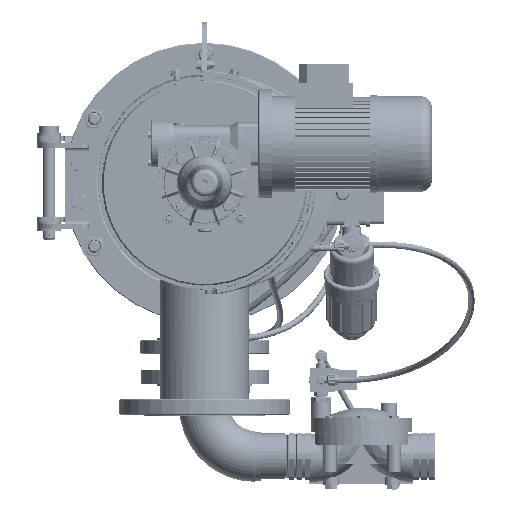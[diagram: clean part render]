
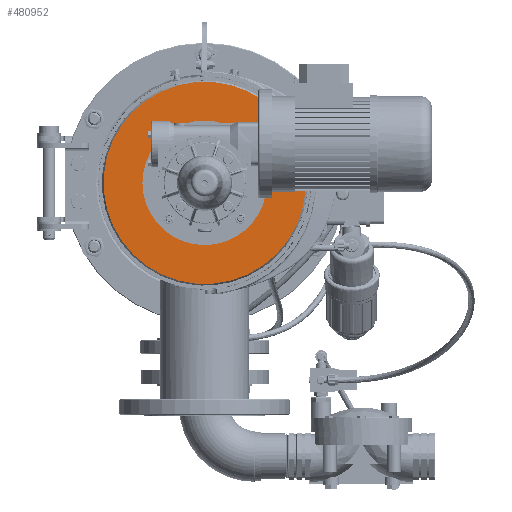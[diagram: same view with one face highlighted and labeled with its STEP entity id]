
A CAD part, left-side view. The second image highlights one B-rep face of the part: STEP entity #480952.
In plain terms, the highlighted planar face has unit normal (-1, 0, 0).
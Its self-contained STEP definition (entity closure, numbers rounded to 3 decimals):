
#29604 = CARTESIAN_POINT ( 'NONE',  ( -197.772, -24.138, -35.976 ) ) ;
#32699 = DIRECTION ( 'NONE',  ( 0., -0.707, 0.707 ) ) ;
#33155 = CIRCLE ( 'NONE', #551403, 4.75 ) ;
#38678 = CARTESIAN_POINT ( 'NONE',  ( -197.772, 32.887, -24.059 ) ) ;
#43013 = CARTESIAN_POINT ( 'NONE',  ( -197.772, -21.486, -38.628 ) ) ;
#49628 = CARTESIAN_POINT ( 'NONE',  ( -197.772, 1.495, -15.647 ) ) ;
#50391 = FACE_BOUND ( 'NONE', #479913, .T. ) ;
#55289 = EDGE_LOOP ( 'NONE', ( #739970 ) ) ;
#59326 = EDGE_LOOP ( 'NONE', ( #696030 ) ) ;
#73196 = FACE_OUTER_BOUND ( 'NONE', #130669, .T. ) ;
#76000 = VERTEX_POINT ( 'NONE', #841782 ) ;
#82651 = AXIS2_PLACEMENT_3D ( 'NONE', #680848, #263124, #337243 ) ;
#86391 = EDGE_LOOP ( 'NONE', ( #547245 ) ) ;
#100970 = AXIS2_PLACEMENT_3D ( 'NONE', #139042, #226846, #574574 ) ;
#101918 = CARTESIAN_POINT ( 'NONE',  ( -197.772, -44.467, 30.315 ) ) ;
#122835 = EDGE_CURVE ( 'NONE', #592145, #592145, #33155, .T. ) ;
#126126 = EDGE_CURVE ( 'NONE', #149921, #149921, #185911, .T. ) ;
#128297 = DIRECTION ( 'NONE',  ( -1., 0., 0. ) ) ;
#130669 = EDGE_LOOP ( 'NONE', ( #728854 ) ) ;
#138115 = CARTESIAN_POINT ( 'NONE',  ( -197.772, -90.429, -107.571 ) ) ;
#139042 = CARTESIAN_POINT ( 'NONE',  ( -197.772, 1.495, -15.647 ) ) ;
#140531 = DIRECTION ( 'NONE',  ( 0., -0.707, 0.707 ) ) ;
#149921 = VERTEX_POINT ( 'NONE', #562571 ) ;
#185911 = CIRCLE ( 'NONE', #82651, 3.75 ) ;
#186964 = DIRECTION ( 'NONE',  ( 0., -0.707, 0.707 ) ) ;
#190155 = DIRECTION ( 'NONE',  ( 1., 0., 0. ) ) ;
#207739 = FACE_BOUND ( 'NONE', #529513, .T. ) ;
#220761 = ORIENTED_EDGE ( 'NONE', *, *, #831309, .F. ) ;
#224460 = ORIENTED_EDGE ( 'NONE', *, *, #705300, .T. ) ;
#226846 = DIRECTION ( 'NONE',  ( -1., 0., 0. ) ) ;
#258334 = VERTEX_POINT ( 'NONE', #601621 ) ;
#262579 = EDGE_CURVE ( 'NONE', #911483, #911483, #323141, .T. ) ;
#263124 = DIRECTION ( 'NONE',  ( 1., 0., 0. ) ) ;
#275004 = DIRECTION ( 'NONE',  ( 1., 0., 0. ) ) ;
#275167 = CIRCLE ( 'NONE', #408784, 4.75 ) ;
#281036 = DIRECTION ( 'NONE',  ( 0., 0.707, -0.707 ) ) ;
#281422 = CIRCLE ( 'NONE', #844664, 4.75 ) ;
#298610 = ORIENTED_EDGE ( 'NONE', *, *, #122835, .T. ) ;
#305510 = DIRECTION ( 'NONE',  ( 0., -0.707, 0.707 ) ) ;
#323141 = CIRCLE ( 'NONE', #100970, 130. ) ;
#324550 = CARTESIAN_POINT ( 'NONE',  ( -197.772, -44.467, -61.609 ) ) ;
#333054 = FACE_BOUND ( 'NONE', #59326, .T. ) ;
#337243 = DIRECTION ( 'NONE',  ( 0., -0.707, 0.707 ) ) ;
#342203 = FACE_BOUND ( 'NONE', #824754, .T. ) ;
#352637 = CIRCLE ( 'NONE', #412237, 4.75 ) ;
#365831 = DIRECTION ( 'NONE',  ( 1., 0., 0. ) ) ;
#366534 = ORIENTED_EDGE ( 'NONE', *, *, #126126, .T. ) ;
#381691 = VERTEX_POINT ( 'NONE', #29604 ) ;
#393533 = DIRECTION ( 'NONE',  ( 0., -0.707, 0.707 ) ) ;
#398597 = EDGE_CURVE ( 'NONE', #258334, #258334, #546914, .T. ) ;
#408784 = AXIS2_PLACEMENT_3D ( 'NONE', #101918, #514617, #393533 ) ;
#412237 = AXIS2_PLACEMENT_3D ( 'NONE', #710969, #275004, #140531 ) ;
#412570 = EDGE_CURVE ( 'NONE', #829236, #829236, #275167, .T. ) ;
#424842 = CARTESIAN_POINT ( 'NONE',  ( -197.772, -47.826, 33.674 ) ) ;
#452978 = CARTESIAN_POINT ( 'NONE',  ( -197.772, -47.826, -58.25 ) ) ;
#472090 = EDGE_CURVE ( 'NONE', #746885, #746885, #281422, .T. ) ;
#479913 = EDGE_LOOP ( 'NONE', ( #366534 ) ) ;
#480952 = ADVANCED_FACE ( 'NONE', ( #895078, #541846, #50391, #333054, #342203, #207739, #490462, #620574, #73196 ), #769217, .F. ) ;
#490462 = FACE_BOUND ( 'NONE', #649877, .T. ) ;
#514617 = DIRECTION ( 'NONE',  ( 1., 0., 0. ) ) ;
#529513 = EDGE_LOOP ( 'NONE', ( #298610 ) ) ;
#541846 = FACE_BOUND ( 'NONE', #55289, .T. ) ;
#546914 = CIRCLE ( 'NONE', #605803, 3.75 ) ;
#547245 = ORIENTED_EDGE ( 'NONE', *, *, #472090, .T. ) ;
#551403 = AXIS2_PLACEMENT_3D ( 'NONE', #324550, #190155, #32699 ) ;
#558239 = CARTESIAN_POINT ( 'NONE',  ( -197.772, 93.419, -107.571 ) ) ;
#562571 = CARTESIAN_POINT ( 'NONE',  ( -197.772, -9.569, 18.397 ) ) ;
#574574 = DIRECTION ( 'NONE',  ( 0., 0.707, -0.707 ) ) ;
#592145 = VERTEX_POINT ( 'NONE', #452978 ) ;
#601621 = CARTESIAN_POINT ( 'NONE',  ( -197.772, 30.236, -21.407 ) ) ;
#605803 = AXIS2_PLACEMENT_3D ( 'NONE', #38678, #822698, #186964 ) ;
#620574 = FACE_BOUND ( 'NONE', #715326, .T. ) ;
#649877 = EDGE_LOOP ( 'NONE', ( #224460 ) ) ;
#653087 = VERTEX_POINT ( 'NONE', #853038 ) ;
#657657 = CIRCLE ( 'NONE', #776444, 3.75 ) ;
#679367 = AXIS2_PLACEMENT_3D ( 'NONE', #49628, #128297, #281036 ) ;
#680848 = CARTESIAN_POINT ( 'NONE',  ( -197.772, -6.917, 15.746 ) ) ;
#696030 = ORIENTED_EDGE ( 'NONE', *, *, #398597, .T. ) ;
#700378 = AXIS2_PLACEMENT_3D ( 'NONE', #138115, #834346, #778294 ) ;
#705300 = EDGE_CURVE ( 'NONE', #381691, #381691, #657657, .T. ) ;
#710969 = CARTESIAN_POINT ( 'NONE',  ( -197.772, 47.457, -61.609 ) ) ;
#715326 = EDGE_LOOP ( 'NONE', ( #220761 ) ) ;
#728854 = ORIENTED_EDGE ( 'NONE', *, *, #262579, .T. ) ;
#739970 = ORIENTED_EDGE ( 'NONE', *, *, #412570, .T. ) ;
#746885 = VERTEX_POINT ( 'NONE', #756068 ) ;
#756068 = CARTESIAN_POINT ( 'NONE',  ( -197.772, 44.098, 33.674 ) ) ;
#769217 = PLANE ( 'NONE',  #700378 ) ;
#776444 = AXIS2_PLACEMENT_3D ( 'NONE', #43013, #883053, #892245 ) ;
#778294 = DIRECTION ( 'NONE',  ( 0., -0.707, 0.707 ) ) ;
#811842 = ORIENTED_EDGE ( 'NONE', *, *, #858848, .T. ) ;
#822698 = DIRECTION ( 'NONE',  ( 1., 0., 0. ) ) ;
#824754 = EDGE_LOOP ( 'NONE', ( #811842 ) ) ;
#827304 = CIRCLE ( 'NONE', #679367, 26. ) ;
#829236 = VERTEX_POINT ( 'NONE', #424842 ) ;
#831309 = EDGE_CURVE ( 'NONE', #653087, #653087, #827304, .T. ) ;
#834346 = DIRECTION ( 'NONE',  ( 1., 0., 0. ) ) ;
#841782 = CARTESIAN_POINT ( 'NONE',  ( -197.772, 44.098, -58.25 ) ) ;
#844664 = AXIS2_PLACEMENT_3D ( 'NONE', #881172, #365831, #305510 ) ;
#853038 = CARTESIAN_POINT ( 'NONE',  ( -197.772, 19.88, -34.032 ) ) ;
#858848 = EDGE_CURVE ( 'NONE', #76000, #76000, #352637, .T. ) ;
#881172 = CARTESIAN_POINT ( 'NONE',  ( -197.772, 47.457, 30.315 ) ) ;
#883053 = DIRECTION ( 'NONE',  ( 1., 0., 0. ) ) ;
#892245 = DIRECTION ( 'NONE',  ( 0., -0.707, 0.707 ) ) ;
#895078 = FACE_BOUND ( 'NONE', #86391, .T. ) ;
#911483 = VERTEX_POINT ( 'NONE', #558239 ) ;
